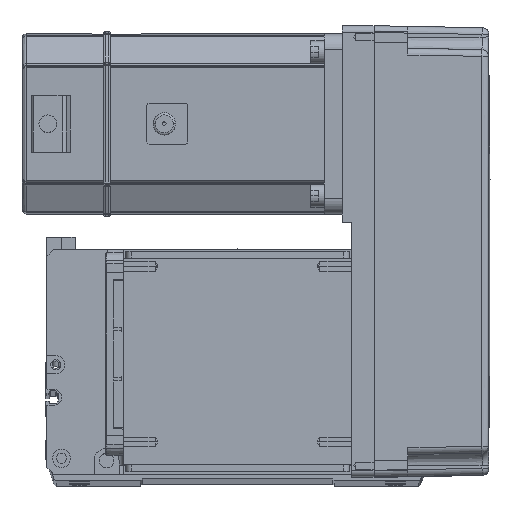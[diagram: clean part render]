
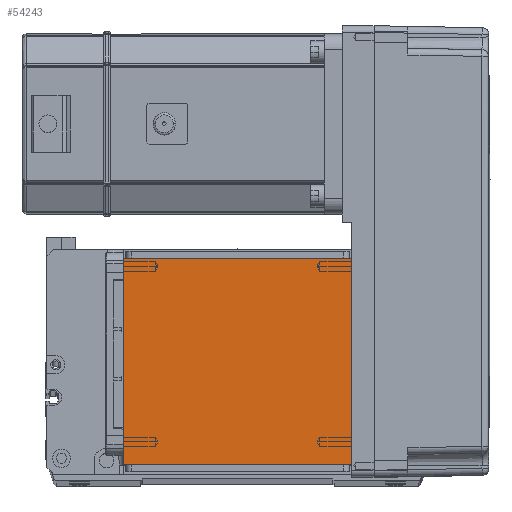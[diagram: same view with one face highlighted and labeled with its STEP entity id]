
A CAD part, top view. The second image highlights one B-rep face of the part: STEP entity #54243.
In plain terms, the highlighted planar face has unit normal (0, 0, 1).
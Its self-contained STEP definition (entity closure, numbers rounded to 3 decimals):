
#1427 = CARTESIAN_POINT ( 'NONE',  ( -50.5, 20., 115. ) ) ;
#1928 = DIRECTION ( 'NONE',  ( 1., 0., 0. ) ) ;
#6736 = CARTESIAN_POINT ( 'NONE',  ( -70.004, 111.5, 115. ) ) ;
#7339 = AXIS2_PLACEMENT_3D ( 'NONE', #53241, #25023, #1928 ) ;
#8352 = EDGE_CURVE ( 'NONE', #22109, #15625, #35860, .T. ) ;
#11150 = DIRECTION ( 'NONE',  ( 1., 0., 0. ) ) ;
#12086 = CARTESIAN_POINT ( 'NONE',  ( 50.5, 111.5, 115. ) ) ;
#13465 = ORIENTED_EDGE ( 'NONE', *, *, #36485, .F. ) ;
#15625 = VERTEX_POINT ( 'NONE', #1427 ) ;
#16193 = DIRECTION ( 'NONE',  ( 0., -1., 0. ) ) ;
#16794 = VERTEX_POINT ( 'NONE', #12086 ) ;
#17655 = ORIENTED_EDGE ( 'NONE', *, *, #44367, .F. ) ;
#18390 = ORIENTED_EDGE ( 'NONE', *, *, #30405, .T. ) ;
#20565 = CARTESIAN_POINT ( 'NONE',  ( -70.004, 20., 115. ) ) ;
#21537 = VECTOR ( 'NONE', #51869, 1000. ) ;
#22109 = VERTEX_POINT ( 'NONE', #43589 ) ;
#22501 = LINE ( 'NONE', #6736, #37722 ) ;
#25009 = CARTESIAN_POINT ( 'NONE',  ( -50.5, 122., 115. ) ) ;
#25023 = DIRECTION ( 'NONE',  ( 0., 0., 1. ) ) ;
#30405 = EDGE_CURVE ( 'NONE', #36219, #16794, #32377, .T. ) ;
#32377 = LINE ( 'NONE', #42872, #21537 ) ;
#34233 = ORIENTED_EDGE ( 'NONE', *, *, #8352, .T. ) ;
#35860 = LINE ( 'NONE', #25009, #48080 ) ;
#36219 = VERTEX_POINT ( 'NONE', #49380 ) ;
#36485 = EDGE_CURVE ( 'NONE', #36219, #15625, #44249, .T. ) ;
#37098 = EDGE_LOOP ( 'NONE', ( #17655, #34233, #13465, #18390 ) ) ;
#37722 = VECTOR ( 'NONE', #11150, 1000. ) ;
#39158 = DIRECTION ( 'NONE',  ( -1., 0., 0. ) ) ;
#42872 = CARTESIAN_POINT ( 'NONE',  ( 50.5, 122., 115. ) ) ;
#43540 = VECTOR ( 'NONE', #39158, 1000. ) ;
#43589 = CARTESIAN_POINT ( 'NONE',  ( -50.5, 111.5, 115. ) ) ;
#44249 = LINE ( 'NONE', #20565, #43540 ) ;
#44367 = EDGE_CURVE ( 'NONE', #22109, #16794, #22501, .T. ) ;
#48080 = VECTOR ( 'NONE', #16193, 1000. ) ;
#49380 = CARTESIAN_POINT ( 'NONE',  ( 50.5, 20., 115. ) ) ;
#51823 = PLANE ( 'NONE',  #7339 ) ;
#51869 = DIRECTION ( 'NONE',  ( 0., 1., 0. ) ) ;
#53241 = CARTESIAN_POINT ( 'NONE',  ( 0., 0., 115. ) ) ;
#53867 = FACE_OUTER_BOUND ( 'NONE', #37098, .T. ) ;
#54243 = ADVANCED_FACE ( 'NONE', ( #53867 ), #51823, .T. ) ;
